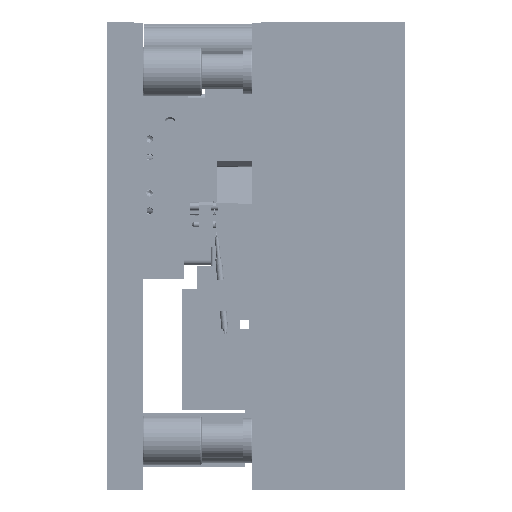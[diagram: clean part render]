
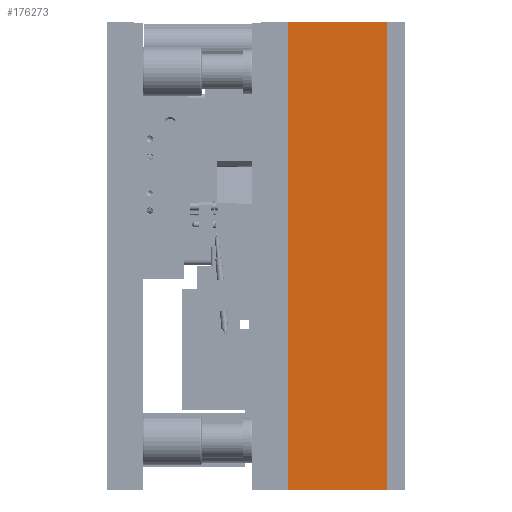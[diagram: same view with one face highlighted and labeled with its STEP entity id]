
A CAD part, left-side view. The second image highlights one B-rep face of the part: STEP entity #176273.
In plain terms, the highlighted planar face has unit normal (-1, 0, 0) as drawn and (0, -1, 0) by its records, which use the part's own axes.
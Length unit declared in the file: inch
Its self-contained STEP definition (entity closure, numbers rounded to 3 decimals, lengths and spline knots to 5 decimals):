
#8392 = CARTESIAN_POINT ( 'NONE',  ( 15.37908, -5.41667, 5.5 ) ) ;
#8801 = DIRECTION ( 'NONE',  ( 1., 0., 0. ) ) ;
#9916 = EDGE_LOOP ( 'NONE', ( #123752, #105668, #78912, #23787 ) ) ;
#18333 = LINE ( 'NONE', #165655, #176051 ) ;
#23787 = ORIENTED_EDGE ( 'NONE', *, *, #25261, .T. ) ;
#24994 = EDGE_CURVE ( 'NONE', #155043, #154227, #49899, .T. ) ;
#25261 = EDGE_CURVE ( 'NONE', #155043, #69872, #128339, .T. ) ;
#39274 = EDGE_CURVE ( 'NONE', #69872, #127672, #76682, .T. ) ;
#48168 = DIRECTION ( 'NONE',  ( 0., 0., 1. ) ) ;
#49899 = LINE ( 'NONE', #64145, #109415 ) ;
#52396 = VECTOR ( 'NONE', #169381, 39.37008 ) ;
#57583 = DIRECTION ( 'NONE',  ( 0., 0., -1. ) ) ;
#64145 = CARTESIAN_POINT ( 'NONE',  ( -10.62092, -5.41667, 5.5 ) ) ;
#69872 = VERTEX_POINT ( 'NONE', #104818 ) ;
#74956 = CARTESIAN_POINT ( 'NONE',  ( -10.62092, -5.41667, 5.5 ) ) ;
#76682 = LINE ( 'NONE', #131170, #144061 ) ;
#78912 = ORIENTED_EDGE ( 'NONE', *, *, #24994, .F. ) ;
#82212 = CARTESIAN_POINT ( 'NONE',  ( -10.62092, -5.41667, 5.5 ) ) ;
#89988 = DIRECTION ( 'NONE',  ( 1., 0., 0. ) ) ;
#99248 = EDGE_CURVE ( 'NONE', #154227, #127672, #18333, .T. ) ;
#104818 = CARTESIAN_POINT ( 'NONE',  ( -10.62092, -5.41667, 0. ) ) ;
#105668 = ORIENTED_EDGE ( 'NONE', *, *, #99248, .F. ) ;
#109415 = VECTOR ( 'NONE', #89988, 39.37008 ) ;
#114235 = FACE_OUTER_BOUND ( 'NONE', #9916, .T. ) ;
#123752 = ORIENTED_EDGE ( 'NONE', *, *, #39274, .T. ) ;
#127672 = VERTEX_POINT ( 'NONE', #154144 ) ;
#128081 = AXIS2_PLACEMENT_3D ( 'NONE', #74956, #129423, #48168 ) ;
#128339 = LINE ( 'NONE', #139072, #52396 ) ;
#129423 = DIRECTION ( 'NONE',  ( 0., 1., 0. ) ) ;
#131170 = CARTESIAN_POINT ( 'NONE',  ( -10.62092, -5.41667, 0. ) ) ;
#139072 = CARTESIAN_POINT ( 'NONE',  ( -10.62092, -5.41667, 5.5 ) ) ;
#142810 = PLANE ( 'NONE',  #128081 ) ;
#144061 = VECTOR ( 'NONE', #8801, 39.37008 ) ;
#154144 = CARTESIAN_POINT ( 'NONE',  ( 15.37908, -5.41667, 0. ) ) ;
#154227 = VERTEX_POINT ( 'NONE', #8392 ) ;
#155043 = VERTEX_POINT ( 'NONE', #82212 ) ;
#165655 = CARTESIAN_POINT ( 'NONE',  ( 15.37908, -5.41667, 5.5 ) ) ;
#169381 = DIRECTION ( 'NONE',  ( 0., 0., -1. ) ) ;
#176051 = VECTOR ( 'NONE', #57583, 39.37008 ) ;
#176273 = ADVANCED_FACE ( 'NONE', ( #114235 ), #142810, .F. ) ;
